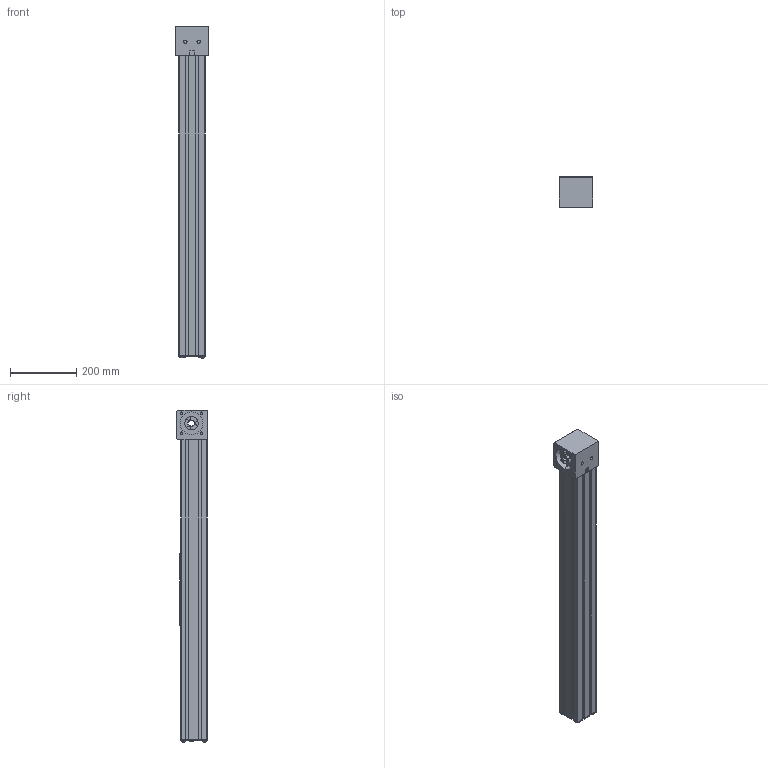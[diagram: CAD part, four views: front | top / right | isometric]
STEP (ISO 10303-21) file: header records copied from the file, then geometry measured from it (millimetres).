
FILE_DESCRIPTION (( 'STEP AP214' ), '1' );
FILE_NAME ('LSZ80.STEP', '2022-06-24T09:02:24', ( '' ), ( '' ), 'SwSTEP 2.0', 'SolidWorks 2020', '' );
FILE_SCHEMA (( 'AUTOMOTIVE_DESIGN' ));
Length unit declared in the file: millimetre
Products named in the file (5): carriage^LSZ80_carriage version 0; end plate^LSZ80; LSZ80; profile^LSZ80; timing belt reverse unit^LSZ80_2x coupling claw
Assembly tree (4 placements, depth 2):
  LSZ80
    profile^LSZ80
    carriage^LSZ80_carriage version 0
    timing belt reverse unit^LSZ80_2x coupling claw
    end plate^LSZ80
Bounding box: 100 x 93 x 999.2 mm (x, y, z)
Volume: 4838704.5 mm3; surface area: 725846.5 mm2
Topology: 7 solids, 7 shells, 483 faces, 1248 edges, 828 vertices
Faces by surface type: plane 350, cylinder 101, bspline 24, cone 8
Entity records: 17205 total; most frequent: CARTESIAN_POINT 4854, ORIENTED_EDGE 2496, DIRECTION 2338, EDGE_CURVE 1248, VECTOR 970, LINE 970, VERTEX_POINT 828, AXIS2_PLACEMENT_3D 684
